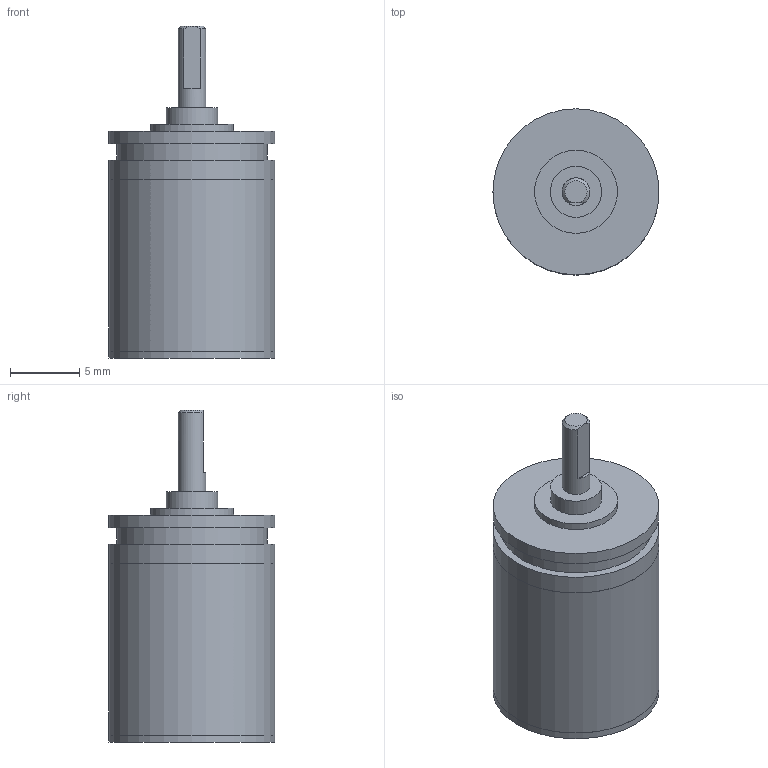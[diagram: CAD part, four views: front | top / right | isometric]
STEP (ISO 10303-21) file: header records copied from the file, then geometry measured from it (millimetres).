
FILE_DESCRIPTION(/* description */ (''),/* implementation_level */ '2;1');
FILE_NAME(/* name */ '12-3K_3.stp',/* time_stamp */ '2016-08-24T10:18:38+02:00',/* author */ ('DR. FRITZ FAULHABER GmbH & Co. KG'),/* organization */ ('DR. FRITZ FAULHABER GmbH & Co. KG'),/* preprocessor_version */ 'ST-DEVELOPER v16',/* originating_system */ 'SIEMENS PLM Software NX 10.0',/* authorisation */ '');
FILE_SCHEMA (('AUTOMOTIVE_DESIGN { 1 0 10303 214 3 1 1 1 }'));
Length unit declared in the file: millimetre
Products named in the file (1): H00000579_A
Bounding box: 12 x 12 x 24 mm (x, y, z)
Volume: 1789.2 mm3; surface area: 1030.8 mm2
Topology: 1 solids, 1 shells, 32 faces, 52 edges, 34 vertices
Faces by surface type: plane 16, cylinder 14, cone 2
Full cylindrical faces by diameter (mm): 2 x1, 2.48 x1, 2.6 x1, 3.7 x1, 5 x1, 6 x2, 10.88 x1, 11.99 x2, 12 x4
Entity records: 692 total; most frequent: DIRECTION 129, CARTESIAN_POINT 115, ORIENTED_EDGE 70, AXIS2_PLACEMENT_3D 63, EDGE_LOOP 59, FACE_BOUND 54, EDGE_CURVE 35, ADVANCED_FACE 32
